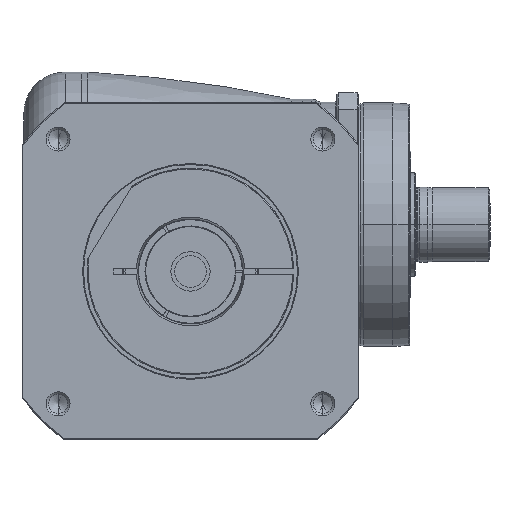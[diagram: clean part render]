
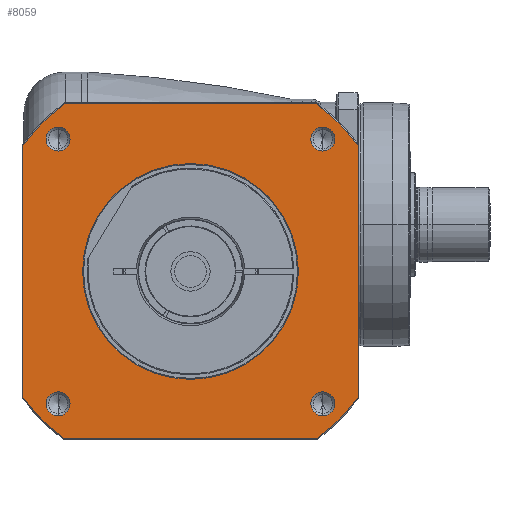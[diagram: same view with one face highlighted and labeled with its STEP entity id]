
A CAD part, front view. The second image highlights one B-rep face of the part: STEP entity #8059.
In plain terms, the highlighted planar face has unit normal (0, -1, 0) as drawn and (0, 0, 1) by its records, which use the part's own axes.
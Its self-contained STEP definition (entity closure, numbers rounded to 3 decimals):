
#6787=DIRECTION('',(1.,0.,0.));
#6788=VECTOR('',#6787,134.666);
#6789=CARTESIAN_POINT('',(-67.333,-89.5,54.));
#6790=LINE('',#6789,#6788);
#6800=CARTESIAN_POINT('',(0.,0.,54.));
#6801=DIRECTION('',(0.,0.,-1.));
#6802=DIRECTION('',(0.,-1.,0.));
#6803=AXIS2_PLACEMENT_3D('',#6800,#6801,#6802);
#6805=CARTESIAN_POINT('',(0.,0.,
54.));
#6806=DIRECTION('',(0.,0.,-1.));
#6807=DIRECTION('',(0.,1.,0.));
#6808=AXIS2_PLACEMENT_3D('',#6805,#6806,#6807);
#6810=CARTESIAN_POINT('',(0.,0.,54.));
#6811=DIRECTION('',(0.,0.,1.));
#6812=DIRECTION('',(-0.799,-0.601,0.));
#6813=AXIS2_PLACEMENT_3D('',#6810,#6811,#6812);
#6825=DIRECTION('',(0.,-1.,0.));
#6826=VECTOR('',#6825,134.666);
#6827=CARTESIAN_POINT('',(-89.5,67.333,54.));
#6828=LINE('',#6827,#6826);
#6838=CARTESIAN_POINT('',(0.,0.,54.));
#6839=DIRECTION('',(0.,0.,1.));
#6840=DIRECTION('',(-0.601,0.799,0.));
#6841=AXIS2_PLACEMENT_3D('',#6838,#6839,#6840);
#6866=DIRECTION('',(-1.,0.,0.));
#6867=VECTOR('',#6866,134.666);
#6868=CARTESIAN_POINT('',(67.333,89.5,54.));
#6869=LINE('',#6868,#6867);
#6874=CARTESIAN_POINT('',(0.,0.,54.));
#6875=DIRECTION('',(0.,0.,1.));
#6876=DIRECTION('',(0.799,0.601,0.));
#6877=AXIS2_PLACEMENT_3D('',#6874,#6875,#6876);
#6889=DIRECTION('',(0.,1.,0.));
#6890=VECTOR('',#6889,134.666);
#6891=CARTESIAN_POINT('',(89.5,-67.333,54.));
#6892=LINE('',#6891,#6890);
#6994=CARTESIAN_POINT('',(0.,0.,54.));
#6995=DIRECTION('',(0.,0.,1.));
#6996=DIRECTION('',(0.601,-0.799,0.));
#6997=AXIS2_PLACEMENT_3D('',#6994,#6995,#6996);
#7276=CARTESIAN_POINT('',(-70.711,70.711,54.));
#7277=DIRECTION('',(0.,0.,1.));
#7278=DIRECTION('',(-1.,0.,0.));
#7279=AXIS2_PLACEMENT_3D('',#7276,#7277,#7278);
#7294=CARTESIAN_POINT('',(-70.711,70.711,54.));
#7295=DIRECTION('',(0.,0.,1.));
#7296=DIRECTION('',(1.,0.,0.));
#7297=AXIS2_PLACEMENT_3D('',#7294,#7295,#7296);
#7330=CARTESIAN_POINT('',(70.711,70.711,54.));
#7331=DIRECTION('',(0.,0.,1.));
#7332=DIRECTION('',(-1.,0.,0.));
#7333=AXIS2_PLACEMENT_3D('',#7330,#7331,#7332);
#7348=CARTESIAN_POINT('',(70.711,70.711,54.));
#7349=DIRECTION('',(0.,0.,1.));
#7350=DIRECTION('',(1.,0.,0.));
#7351=AXIS2_PLACEMENT_3D('',#7348,#7349,#7350);
#7384=CARTESIAN_POINT('',(70.711,-70.711,54.));
#7385=DIRECTION('',(0.,0.,1.));
#7386=DIRECTION('',(-1.,0.,0.));
#7387=AXIS2_PLACEMENT_3D('',#7384,#7385,#7386);
#7402=CARTESIAN_POINT('',(70.711,-70.711,54.));
#7403=DIRECTION('',(0.,0.,1.));
#7404=DIRECTION('',(1.,0.,0.));
#7405=AXIS2_PLACEMENT_3D('',#7402,#7403,#7404);
#7438=CARTESIAN_POINT('',(-70.711,-70.711,54.));
#7439=DIRECTION('',(0.,0.,1.));
#7440=DIRECTION('',(-1.,0.,0.));
#7441=AXIS2_PLACEMENT_3D('',#7438,#7439,#7440);
#7456=CARTESIAN_POINT('',(-70.711,-70.711,54.));
#7457=DIRECTION('',(0.,0.,1.));
#7458=DIRECTION('',(1.,0.,0.));
#7459=AXIS2_PLACEMENT_3D('',#7456,#7457,#7458);
#7500=CARTESIAN_POINT('',(89.5,-67.333,54.));
#7501=CARTESIAN_POINT('',(89.5,67.333,54.));
#7502=VERTEX_POINT('',#7500);
#7503=VERTEX_POINT('',#7501);
#7508=CARTESIAN_POINT('',(67.333,-89.5,54.));
#7509=VERTEX_POINT('',#7508);
#7512=CARTESIAN_POINT('',(-67.333,-89.5,54.));
#7513=VERTEX_POINT('',#7512);
#7516=CARTESIAN_POINT('',(-89.5,-67.333,54.));
#7517=VERTEX_POINT('',#7516);
#7520=CARTESIAN_POINT('',(-89.5,67.333,54.));
#7521=VERTEX_POINT('',#7520);
#7524=CARTESIAN_POINT('',(-67.333,89.5,54.));
#7525=VERTEX_POINT('',#7524);
#7528=CARTESIAN_POINT('',(67.333,89.5,54.));
#7529=VERTEX_POINT('',#7528);
#7578=CARTESIAN_POINT('',(-77.111,70.711,54.));
#7579=CARTESIAN_POINT('',(-64.311,70.711,54.));
#7580=VERTEX_POINT('',#7578);
#7581=VERTEX_POINT('',#7579);
#7612=CARTESIAN_POINT('',(77.111,70.711,54.));
#7613=CARTESIAN_POINT('',(64.311,70.711,54.));
#7614=VERTEX_POINT('',#7612);
#7615=VERTEX_POINT('',#7613);
#7620=CARTESIAN_POINT('',(77.111,-70.711,54.));
#7621=CARTESIAN_POINT('',(64.311,-70.711,54.));
#7622=VERTEX_POINT('',#7620);
#7623=VERTEX_POINT('',#7621);
#7628=CARTESIAN_POINT('',(-64.311,-70.711,54.));
#7629=CARTESIAN_POINT('',(-77.111,-70.711,54.));
#7630=VERTEX_POINT('',#7628);
#7631=VERTEX_POINT('',#7629);
#7636=CARTESIAN_POINT('',(0.,-57.65,54.));
#7637=CARTESIAN_POINT('',(0.,57.65,54.));
#7638=VERTEX_POINT('',#7636);
#7639=VERTEX_POINT('',#7637);
#8007=CARTESIAN_POINT('',(0.,0.,54.));
#8008=DIRECTION('',(0.,0.,1.));
#8009=DIRECTION('',(1.,0.,0.));
#8010=AXIS2_PLACEMENT_3D('',#8007,#8008,#8009);
#8011=PLANE('',#8010);
#8013=ORIENTED_EDGE('',*,*,#8012,.F.);
#8015=ORIENTED_EDGE('',*,*,#8014,.F.);
#8017=ORIENTED_EDGE('',*,*,#8016,.F.);
#8019=ORIENTED_EDGE('',*,*,#8018,.F.);
#8021=ORIENTED_EDGE('',*,*,#8020,.F.);
#8023=ORIENTED_EDGE('',*,*,#8022,.F.);
#8025=ORIENTED_EDGE('',*,*,#8024,.F.);
#8026=ORIENTED_EDGE('',*,*,#7997,.F.);
#8027=EDGE_LOOP('',(#8013,#8015,#8017,#8019,#8021,#8023,#8025,#8026));
#8028=FACE_OUTER_BOUND('',#8027,.F.);
#8030=ORIENTED_EDGE('',*,*,#8029,.F.);
#8032=ORIENTED_EDGE('',*,*,#8031,.F.);
#8033=EDGE_LOOP('',(#8030,#8032));
#8034=FACE_BOUND('',#8033,.F.);
#8036=ORIENTED_EDGE('',*,*,#8035,.T.);
#8038=ORIENTED_EDGE('',*,*,#8037,.T.);
#8039=EDGE_LOOP('',(#8036,#8038));
#8040=FACE_BOUND('',#8039,.F.);
#8042=ORIENTED_EDGE('',*,*,#8041,.T.);
#8044=ORIENTED_EDGE('',*,*,#8043,.T.);
#8045=EDGE_LOOP('',(#8042,#8044));
#8046=FACE_BOUND('',#8045,.F.);
#8048=ORIENTED_EDGE('',*,*,#8047,.T.);
#8050=ORIENTED_EDGE('',*,*,#8049,.T.);
#8051=EDGE_LOOP('',(#8048,#8050));
#8052=FACE_BOUND('',#8051,.F.);
#8054=ORIENTED_EDGE('',*,*,#8053,.T.);
#8056=ORIENTED_EDGE('',*,*,#8055,.T.);
#8057=EDGE_LOOP('',(#8054,#8056));
#8058=FACE_BOUND('',#8057,.F.);
#8059=ADVANCED_FACE('',(#8028,#8034,#8040,#8046,#8052,#8058),#8011,.T.);
#6804=CIRCLE('',#6803,57.65);
#6809=CIRCLE('',#6808,57.65);
#6814=CIRCLE('',#6813,112.);
#6842=CIRCLE('',#6841,112.);
#6878=CIRCLE('',#6877,112.);
#6998=CIRCLE('',#6997,112.);
#7280=CIRCLE('',#7279,6.4);
#7298=CIRCLE('',#7297,6.4);
#7334=CIRCLE('',#7333,6.4);
#7352=CIRCLE('',#7351,6.4);
#7388=CIRCLE('',#7387,6.4);
#7406=CIRCLE('',#7405,6.4);
#7442=CIRCLE('',#7441,6.4);
#7460=CIRCLE('',#7459,6.4);
#7997=EDGE_CURVE('',#7513,#7509,#6790,.T.);
#8012=EDGE_CURVE('',#7517,#7513,#6814,.T.);
#8014=EDGE_CURVE('',#7521,#7517,#6828,.T.);
#8016=EDGE_CURVE('',#7525,#7521,#6842,.T.);
#8018=EDGE_CURVE('',#7529,#7525,#6869,.T.);
#8020=EDGE_CURVE('',#7503,#7529,#6878,.T.);
#8022=EDGE_CURVE('',#7502,#7503,#6892,.T.);
#8024=EDGE_CURVE('',#7509,#7502,#6998,.T.);
#8029=EDGE_CURVE('',#7638,#7639,#6804,.T.);
#8031=EDGE_CURVE('',#7639,#7638,#6809,.T.);
#8035=EDGE_CURVE('',#7580,#7581,#7280,.T.);
#8037=EDGE_CURVE('',#7581,#7580,#7298,.T.);
#8041=EDGE_CURVE('',#7615,#7614,#7334,.T.);
#8043=EDGE_CURVE('',#7614,#7615,#7352,.T.);
#8047=EDGE_CURVE('',#7623,#7622,#7388,.T.);
#8049=EDGE_CURVE('',#7622,#7623,#7406,.T.);
#8053=EDGE_CURVE('',#7631,#7630,#7442,.T.);
#8055=EDGE_CURVE('',#7630,#7631,#7460,.T.);
